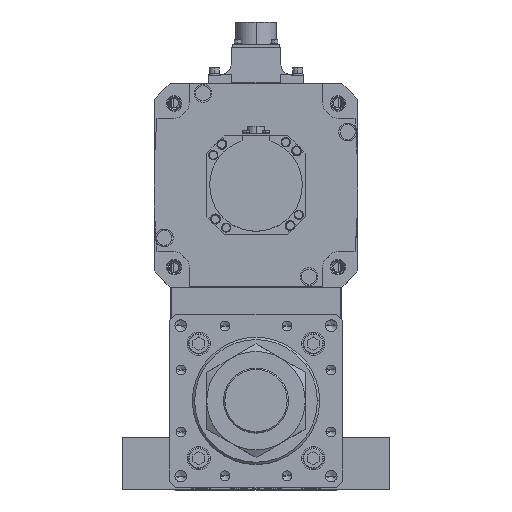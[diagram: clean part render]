
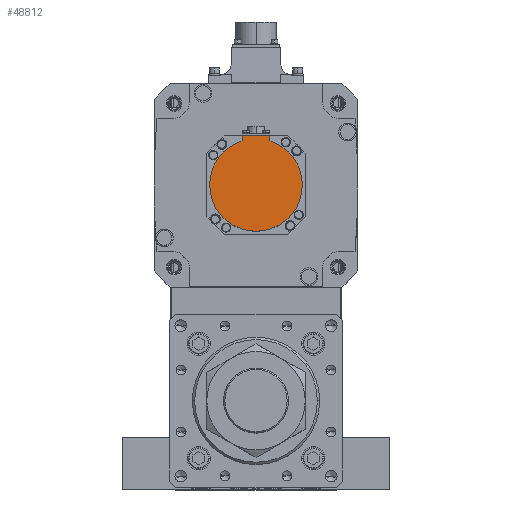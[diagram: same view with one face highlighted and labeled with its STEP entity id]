
A CAD part, top view. The second image highlights one B-rep face of the part: STEP entity #48812.
In plain terms, the highlighted planar face has unit normal (0, 0, 1) as drawn and (0, 0, -1) by its records, which use the part's own axes.
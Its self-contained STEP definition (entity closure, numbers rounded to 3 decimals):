
#342 = CARTESIAN_POINT ( 'NONE',  ( -12., -42.5, -162.5 ) ) ;
#1361 = DIRECTION ( 'NONE',  ( 1., 0., 0. ) ) ;
#1581 = VERTEX_POINT ( 'NONE', #32855 ) ;
#4819 = DIRECTION ( 'NONE',  ( 1., 0., 0. ) ) ;
#5540 = DIRECTION ( 'NONE',  ( 0., 0., 1. ) ) ;
#6898 = AXIS2_PLACEMENT_3D ( 'NONE', #25758, #30125, #4819 ) ;
#6968 = VECTOR ( 'NONE', #48060, 1000. ) ;
#8804 = CARTESIAN_POINT ( 'NONE',  ( 0., 0., -162.5 ) ) ;
#8957 = ORIENTED_EDGE ( 'NONE', *, *, #44947, .F. ) ;
#11815 = ORIENTED_EDGE ( 'NONE', *, *, #53735, .F. ) ;
#12720 = VERTEX_POINT ( 'NONE', #38101 ) ;
#13381 = EDGE_CURVE ( 'NONE', #12720, #28039, #43909, .T. ) ;
#14666 = EDGE_LOOP ( 'NONE', ( #25427, #11815, #21693, #8957, #16707, #14717 ) ) ;
#14717 = ORIENTED_EDGE ( 'NONE', *, *, #41341, .T. ) ;
#15948 = FACE_OUTER_BOUND ( 'NONE', #14666, .T. ) ;
#16707 = ORIENTED_EDGE ( 'NONE', *, *, #23867, .F. ) ;
#19884 = CARTESIAN_POINT ( 'NONE',  ( -12., -38.158, -162.5 ) ) ;
#21693 = ORIENTED_EDGE ( 'NONE', *, *, #13381, .F. ) ;
#23867 = EDGE_CURVE ( 'NONE', #1581, #29274, #24167, .T. ) ;
#24167 = LINE ( 'NONE', #28003, #44358 ) ;
#24559 = CARTESIAN_POINT ( 'NONE',  ( -12., -40.329, -162.5 ) ) ;
#25239 = CARTESIAN_POINT ( 'NONE',  ( 0., -1.249, -162.5 ) ) ;
#25427 = ORIENTED_EDGE ( 'NONE', *, *, #53058, .T. ) ;
#25758 = CARTESIAN_POINT ( 'NONE',  ( 0., 0., -162.5 ) ) ;
#25850 = LINE ( 'NONE', #39151, #6968 ) ;
#28003 = CARTESIAN_POINT ( 'NONE',  ( 12., -1.249, -162.5 ) ) ;
#28039 = VERTEX_POINT ( 'NONE', #51216 ) ;
#29274 = VERTEX_POINT ( 'NONE', #48286 ) ;
#29579 = VERTEX_POINT ( 'NONE', #342 ) ;
#29580 = DIRECTION ( 'NONE',  ( 1., 0., 0. ) ) ;
#30125 = DIRECTION ( 'NONE',  ( 0., 0., 1. ) ) ;
#31035 = CARTESIAN_POINT ( 'NONE',  ( 0., 0., -162.5 ) ) ;
#31378 = AXIS2_PLACEMENT_3D ( 'NONE', #8804, #33781, #29580 ) ;
#32855 = CARTESIAN_POINT ( 'NONE',  ( 12., -42.5, -162.5 ) ) ;
#33781 = DIRECTION ( 'NONE',  ( 0., 0., 1. ) ) ;
#35072 = VECTOR ( 'NONE', #37150, 1000. ) ;
#36217 = DIRECTION ( 'NONE',  ( 0., 1., 0. ) ) ;
#37010 = CIRCLE ( 'NONE', #6898, 40. ) ;
#37150 = DIRECTION ( 'NONE',  ( 0., 1., 0. ) ) ;
#37656 = PLANE ( 'NONE',  #40963 ) ;
#37841 = DIRECTION ( 'NONE',  ( 0., 0., 1. ) ) ;
#38101 = CARTESIAN_POINT ( 'NONE',  ( 40., 0., -162.5 ) ) ;
#39151 = CARTESIAN_POINT ( 'NONE',  ( 0., -42.5, -162.5 ) ) ;
#40963 = AXIS2_PLACEMENT_3D ( 'NONE', #25239, #37841, #49651 ) ;
#41341 = EDGE_CURVE ( 'NONE', #1581, #29579, #25850, .T. ) ;
#43909 = CIRCLE ( 'NONE', #50443, 40. ) ;
#44358 = VECTOR ( 'NONE', #36217, 1000. ) ;
#44366 = CIRCLE ( 'NONE', #31378, 40. ) ;
#44947 = EDGE_CURVE ( 'NONE', #29274, #12720, #44366, .T. ) ;
#45525 = VERTEX_POINT ( 'NONE', #19884 ) ;
#48060 = DIRECTION ( 'NONE',  ( -1., 0., 0. ) ) ;
#48078 = LINE ( 'NONE', #24559, #35072 ) ;
#48286 = CARTESIAN_POINT ( 'NONE',  ( 12., -38.158, -162.5 ) ) ;
#48812 = ADVANCED_FACE ( 'NONE', ( #15948 ), #37656, .F. ) ;
#49651 = DIRECTION ( 'NONE',  ( 1., 0., 0. ) ) ;
#50443 = AXIS2_PLACEMENT_3D ( 'NONE', #31035, #5540, #1361 ) ;
#51216 = CARTESIAN_POINT ( 'NONE',  ( -40., 0., -162.5 ) ) ;
#53058 = EDGE_CURVE ( 'NONE', #29579, #45525, #48078, .T. ) ;
#53735 = EDGE_CURVE ( 'NONE', #28039, #45525, #37010, .T. ) ;
